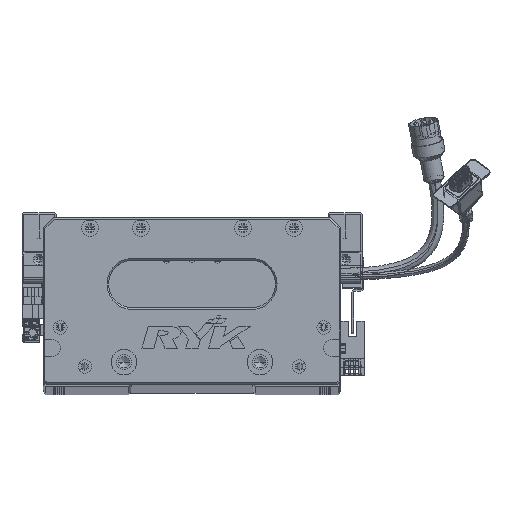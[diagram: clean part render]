
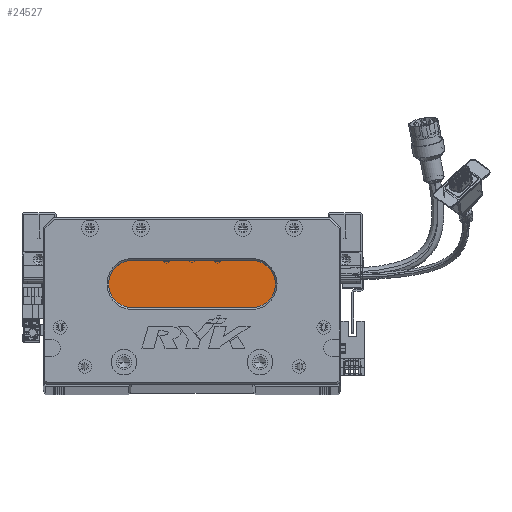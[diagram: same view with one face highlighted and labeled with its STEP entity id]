
A CAD part, top view. The second image highlights one B-rep face of the part: STEP entity #24527.
In plain terms, the highlighted planar face has unit normal (0, 0, 1) as drawn and (0, 0, -1) by its records, which use the part's own axes.
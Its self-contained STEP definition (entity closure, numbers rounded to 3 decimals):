
#9230 = EDGE_CURVE ( 'NONE', #116088, #40563, #96900, .T. ) ;
#11471 = AXIS2_PLACEMENT_3D ( 'NONE', #30785, #82078, #20585 ) ;
#14843 = CARTESIAN_POINT ( 'NONE',  ( 122.5, 59., 18. ) ) ;
#16179 = EDGE_CURVE ( 'NONE', #118719, #116088, #41035, .T. ) ;
#16820 = ORIENTED_EDGE ( 'NONE', *, *, #129954, .T. ) ;
#19439 = DIRECTION ( 'NONE',  ( 0., 0., -1. ) ) ;
#20585 = DIRECTION ( 'NONE',  ( -1., 0., 0. ) ) ;
#23548 = CIRCLE ( 'NONE', #11471, 14. ) ;
#24527 = ADVANCED_FACE ( 'NONE', ( #75192 ), #62537, .T. ) ;
#30785 = CARTESIAN_POINT ( 'NONE',  ( 52.5, 59., 18. ) ) ;
#32383 = ORIENTED_EDGE ( 'NONE', *, *, #16179, .T. ) ;
#36798 = DIRECTION ( 'NONE',  ( 1., 0., 0. ) ) ;
#40563 = VERTEX_POINT ( 'NONE', #82090 ) ;
#41035 = LINE ( 'NONE', #47476, #74007 ) ;
#47476 = CARTESIAN_POINT ( 'NONE',  ( 122.5, 73., 18. ) ) ;
#48505 = AXIS2_PLACEMENT_3D ( 'NONE', #14843, #56932, #88749 ) ;
#48800 = EDGE_CURVE ( 'NONE', #127017, #55972, #23548, .T. ) ;
#52319 = CARTESIAN_POINT ( 'NONE',  ( 52.5, 59., 18. ) ) ;
#53811 = DIRECTION ( 'NONE',  ( -1., 0., 0. ) ) ;
#55972 = VERTEX_POINT ( 'NONE', #119773 ) ;
#56932 = DIRECTION ( 'NONE',  ( 0., 0., -1. ) ) ;
#62537 = PLANE ( 'NONE',  #73333 ) ;
#65824 = AXIS2_PLACEMENT_3D ( 'NONE', #52319, #19439, #126144 ) ;
#73333 = AXIS2_PLACEMENT_3D ( 'NONE', #128062, #74053, #53811 ) ;
#74007 = VECTOR ( 'NONE', #36798, 1000. ) ;
#74053 = DIRECTION ( 'NONE',  ( 0., 0., -1. ) ) ;
#74513 = CARTESIAN_POINT ( 'NONE',  ( 122.5, 73., 18. ) ) ;
#75192 = FACE_OUTER_BOUND ( 'NONE', #125746, .T. ) ;
#77687 = ORIENTED_EDGE ( 'NONE', *, *, #9230, .T. ) ;
#82078 = DIRECTION ( 'NONE',  ( 0., 0., -1. ) ) ;
#82090 = CARTESIAN_POINT ( 'NONE',  ( 122.5, 45., 18. ) ) ;
#88749 = DIRECTION ( 'NONE',  ( -1., 0., 0. ) ) ;
#95096 = ORIENTED_EDGE ( 'NONE', *, *, #104212, .T. ) ;
#96900 = CIRCLE ( 'NONE', #48505, 14. ) ;
#104103 = VECTOR ( 'NONE', #133405, 1000. ) ;
#104212 = EDGE_CURVE ( 'NONE', #40563, #127017, #107439, .T. ) ;
#104369 = CARTESIAN_POINT ( 'NONE',  ( 122.5, 45., 18. ) ) ;
#107439 = LINE ( 'NONE', #104369, #104103 ) ;
#111139 = CIRCLE ( 'NONE', #65824, 14. ) ;
#116088 = VERTEX_POINT ( 'NONE', #74513 ) ;
#117238 = CARTESIAN_POINT ( 'NONE',  ( 52.5, 45., 18. ) ) ;
#118516 = CARTESIAN_POINT ( 'NONE',  ( 52.5, 73., 18. ) ) ;
#118719 = VERTEX_POINT ( 'NONE', #118516 ) ;
#119773 = CARTESIAN_POINT ( 'NONE',  ( 38.5, 59., 18. ) ) ;
#125746 = EDGE_LOOP ( 'NONE', ( #77687, #95096, #130701, #16820, #32383 ) ) ;
#126144 = DIRECTION ( 'NONE',  ( -1., 0., 0. ) ) ;
#127017 = VERTEX_POINT ( 'NONE', #117238 ) ;
#128062 = CARTESIAN_POINT ( 'NONE',  ( 122.5, 59., 18. ) ) ;
#129954 = EDGE_CURVE ( 'NONE', #55972, #118719, #111139, .T. ) ;
#130701 = ORIENTED_EDGE ( 'NONE', *, *, #48800, .T. ) ;
#133405 = DIRECTION ( 'NONE',  ( -1., 0., 0. ) ) ;
